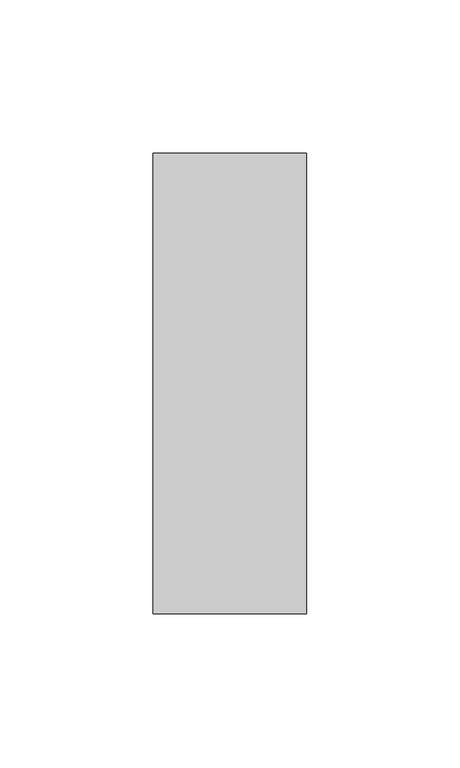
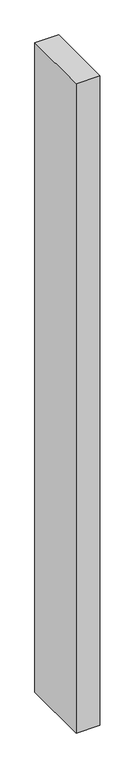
"""IFC4 building model written with IfcOpenShell, lengths in millimetres: member geometry, Прямоугольный импост : 50 x 150 мм."""

from ifc_helpers import new_model, si_unit, frame, origin, place, context, project, spatial, polyline, outline, extrude, source, transform, mapped, element, save


def member_695bedc3(model_context):
    return source(origin(), model_context, "Body", "SweptSolid", [
        extrude(outline(polyline([(25.0, 75.0), (25.0, -75.0), (-25.0, -75.0), (-25.0, 75.0), (25.0, 75.0)])), frame((0.0, 0.0, -1446.9329157), z_axis=(0.0, 0.0, 1.0), x_axis=(1.0, 0.0, 0.0)), (0.0, 0.0, 1.0), 1446.9329157),
    ])


if __name__ == "__main__":
    model = new_model("IFC4")
    model_context = context("Model", 3, world=origin())
    ifc_project = project(units=[si_unit("LENGTHUNIT", "METRE", prefix="MILLI")], contexts=[model_context])
    site = spatial("IfcSite", under=ifc_project)
    building = spatial("IfcBuilding", under=site)
    placement = place(None, origin())
    member_shape = member_695bedc3(model_context)
    element("IfcMember", 1, ObjectType="Прямоугольный импост : 50 x 150 мм", at=placement, inside=building, context=model_context, shape_type="MappedRepresentation", body=[
        mapped(member_shape, transform((0.0, 0.0, 0.0), x_axis=(1.0, 0.0, 0.0), y_axis=(0.0, 1.0, 0.0), z_axis=(0.0, 0.0, 1.0))),
    ])
    save(model, "model.ifc")
